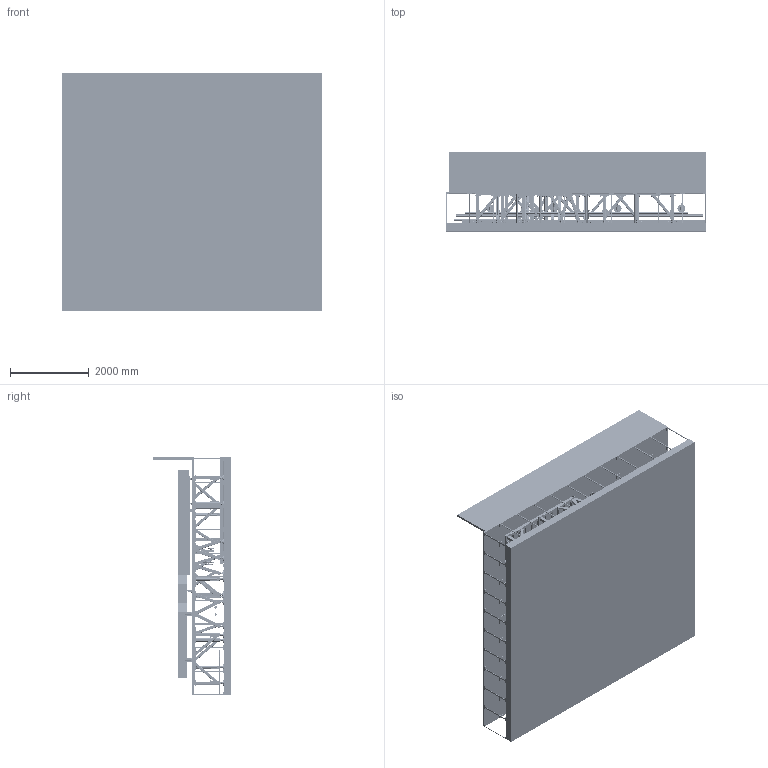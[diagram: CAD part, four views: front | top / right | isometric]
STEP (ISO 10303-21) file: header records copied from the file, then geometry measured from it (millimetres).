
FILE_DESCRIPTION (( 'STEP AP214' ), '1' );
FILE_NAME ('PIC-CADB-00.STEP', '2024-10-01T14:51:12', ( '' ), ( '' ), 'SwSTEP 2.0', 'SolidWorks 2017', '' );
FILE_SCHEMA (( 'AUTOMOTIVE_DESIGN' ));
Length unit declared in the file: millimetre
Products named in the file (36): PIC-CADB-04; v2-FAU-BBC2-05_2; z_Washer_WASHER M 12; PIC-CADB-08_M16; PIC-CADB-05_3; PIC-CADB-07; PIC-CADB-00; Z-Tige filetée - M12-_M12x200; PIC-CADB-00_CHASSIS; PIC-CADB-05_2; Z-Hilti_Cheville segments HSA M16x137; PIC-CADB-05_3<Brut d''usinage>; CANON ADB -BOX; PIC-CADB-06_1<Brut d''usinage>; z-ecrou_m36; v2-FAU-BBC2-05_1<Brut d''usinage>; Z-M12 ASSY-_160; z-M10 assy; PIC-CADB-05_2<Brut d''usinage>; v2-FAU-BBC2-05_2-2; PIC-CADB-03; PIC-CADB-02_D‚faut<Brut d''usinage>; tubes CANON ADB; PIC-CADB-05_1<Brut d''usinage>; Z_Washer-_WASHER M 10; CANON ADB BETON; v2-FAU-BBC2-05_3<Brut d''usinage>; PIC-CADB-05_1; PIC-CADB-07_DWG; CANON ADB FP; z-cacher; z_NUT_H_NUT H M 12; z_Screw_H_SCREW H M10x30-26; z_m36x140; PIC-CADB-08
Assembly tree (448 placements, depth 5):
  PIC-CADB-00
    CANON ADB BETON
    tubes CANON ADB
    CANON ADB FP
    PIC-CADB-00_CHASSIS
      CANON ADB -BOX
      PIC-CADB-02_D‚faut<Brut d''usinage>
      PIC-CADB-04
      PIC-CADB-03
      PIC-CADB-05_1  x11
        PIC-CADB-05_2<Brut d''usinage>
        z-M10 assy
          z_Screw_H_SCREW H M10x30-26
          Z_Washer-_WASHER M 10
        PIC-CADB-06_1<Brut d''usinage>
        PIC-CADB-07_DWG
          z_m36x140
          z-ecrou_m36
          PIC-CADB-07
      PIC-CADB-05_2  x8
        PIC-CADB-05_1<Brut d''usinage>
        z-M10 assy
          z_Screw_H_SCREW H M10x30-26
          Z_Washer-_WASHER M 10
        PIC-CADB-06_1<Brut d''usinage>
        PIC-CADB-07_DWG
          z_m36x140
          z-ecrou_m36
          PIC-CADB-07
      PIC-CADB-05_3
        PIC-CADB-05_3<Brut d''usinage>
        z-M10 assy  x24
          z_Screw_H_SCREW H M10x30-26
          Z_Washer-_WASHER M 10
        PIC-CADB-06_1<Brut d''usinage>  x3
        PIC-CADB-07_DWG
          z_m36x140
          z-ecrou_m36
          PIC-CADB-07
      Z-M12 ASSY-_160  x8
        Z-Tige filetée - M12-_M12x200
        z_Washer_WASHER M 12
        z_NUT_H_NUT H M 12
      PIC-CADB-08_M16
        PIC-CADB-08  x2
        Z-Hilti_Cheville segments HSA M16x137  x2
      PIC-CADB-08_M16  x32
        z-cacher
        PIC-CADB-08
        Z-Hilti_Cheville segments HSA M16x137
      z-M10 assy  x272
        z_Screw_H_SCREW H M10x30-26
        Z_Washer-_WASHER M 10
      v2-FAU-BBC2-05_2-2  x10
        v2-FAU-BBC2-05_3<Brut d''usinage>
        PIC-CADB-07_DWG
          z_m36x140
          z-ecrou_m36
          PIC-CADB-07
        z-M10 assy
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Bounding box: 6600 x 2005 x 6039.11 mm (x, y, z)
Volume: 9749997941.7 mm3; surface area: 378361101.2 mm2
Topology: 2405 solids, 2509 shells, 36393 faces, 85824 edges, 55416 vertices
Faces by surface type: plane 16307, cylinder 13456, cone 6048, bspline 578, torus 4
Entity records: 352675 total; most frequent: CARTESIAN_POINT 56075, DIRECTION 55340, ORIENTED_EDGE 50833, EDGE_CURVE 25424, AXIS2_PLACEMENT_3D 20069, VERTEX_POINT 16750, LINE 15202, VECTOR 15202
